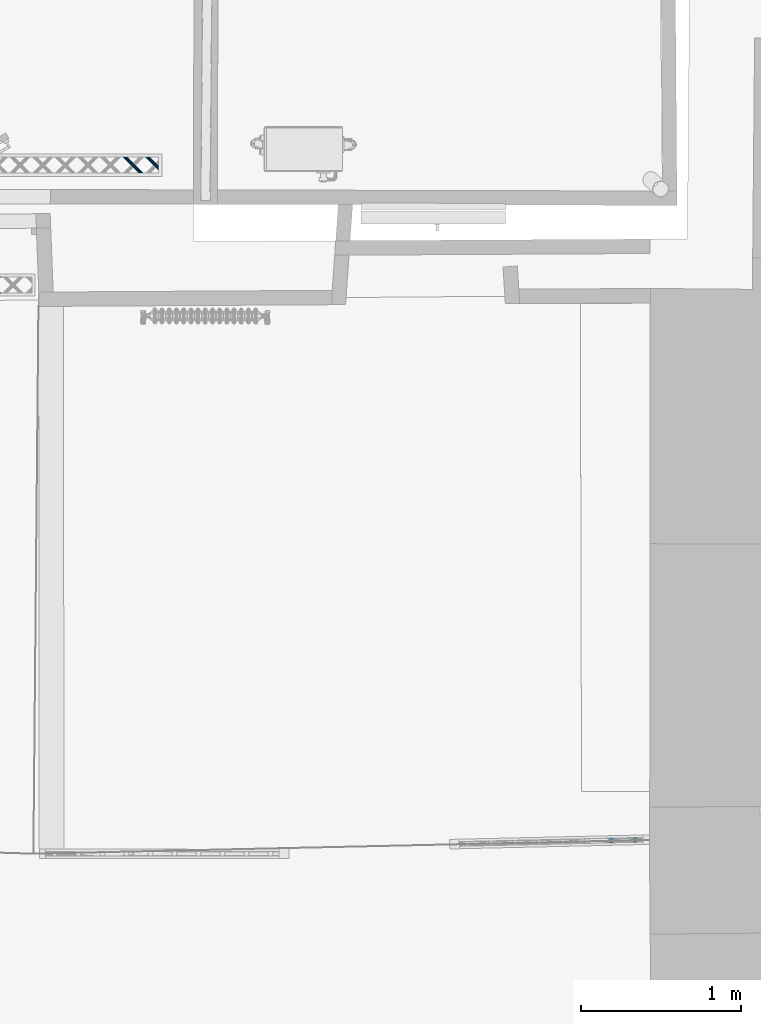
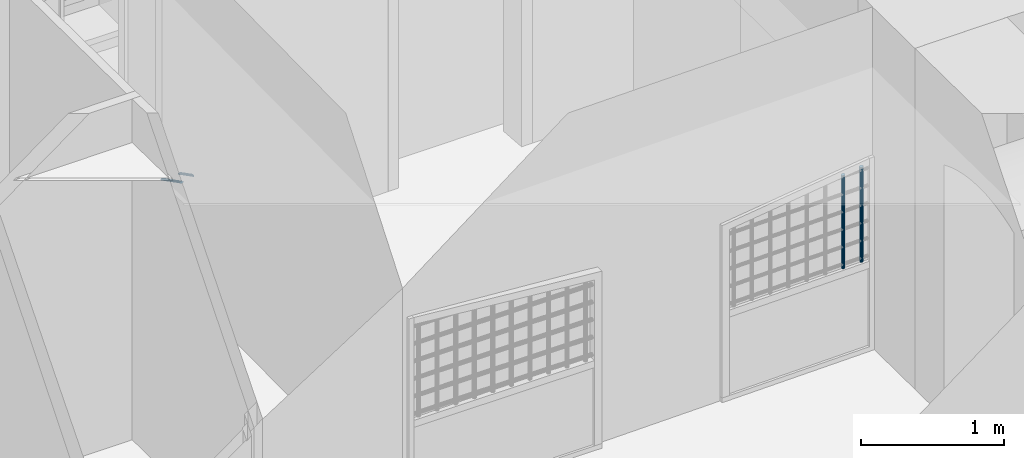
# One storey, part 72 of 133: 4 members, 2 elements without a shape of their own.
"""IFC2X3 building model written with IfcOpenShell, lengths in centimetres."""

from ifc_helpers import new_model, entity, si_unit, converted_unit, direction, frame, origin, origin_with_axes, place, context, subcontext, project, spatial, faceted_brep, material, type_object, element, aggregate, save


model = new_model("IFC2X3")

# Units and contexts
model_context = context("Model", 3, precision=0.0001, world=origin(), true_north=direction((0.225632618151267, 0.974212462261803, 0.0)))
body_context = subcontext(model_context, "Body", "Model", "MODEL_VIEW")
ifc_project = project(units=[si_unit("LENGTHUNIT", "METRE", prefix="CENTI"), si_unit("AREAUNIT", "SQUARE_METRE", prefix="CENTI"), si_unit("VOLUMEUNIT", "CUBIC_METRE", prefix="CENTI"), converted_unit("PLANEANGLEUNIT", "DEGREE", entity("IfcRatioMeasure", 0.0174532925), si_unit("PLANEANGLEUNIT", "RADIAN"), dimensions=[0, 0, 0, 0, 0, 0, 0])], contexts=[model_context])

# Site, building, storey
site_placement = place(None, origin_with_axes())
site = spatial("IfcSite", under=ifc_project, at=site_placement, Name="Default Site", CompositionType="ELEMENT")
building_placement = place(site_placement, origin_with_axes())
building = spatial("IfcBuilding", under=site, at=building_placement, Name="Default Building", CompositionType="ELEMENT")
storey_placement = place(building_placement, frame((0.0, 0.0, -291.400371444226), z_axis=(0.0, 0.0, 1.0), x_axis=(1.0, 0.0, 0.0)))
storey = spatial("IfcBuildingStorey", under=building, at=storey_placement, Name="Rez-de-Jardin", CompositionType="ELEMENT", Elevation=-291.400371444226)

# Assembly, members
building_element_proxy_type = type_object("IfcBuildingElementProxyType", Name="Type Object", PredefinedType="NOTDEFINED")
assembly_1_placement = place(storey_placement, frame((230.29031879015, 209.448968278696, 0.0), z_axis=(0.0, 0.0, 1.0), x_axis=(-0.999739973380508, -0.0228031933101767, 0.0)))
assembly_1 = element("IfcElementAssembly", 1, at=assembly_1_placement, inside=storey, type_object=building_element_proxy_type, Name="Panneau 76236", ObjectType="Precast panel", PredefinedType="USERDEFINED")
ifc_material_1 = material(Name="Noyer 01")
member_1_placement = place(assembly_1_placement, frame((10.409539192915, -2.48696978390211, 158.239233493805), z_axis=(0.112052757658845, -3.42476474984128e-06, 0.993702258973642), x_axis=(0.499207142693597, -0.864652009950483, -0.0562950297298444)))
member_1 = element("IfcMember", 2, at=member_1_placement, material=ifc_material_1, Name="4294966842", context=body_context, shape_type="Brep", body=[
    faceted_brep([(-3.46944695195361e-15, 2.4980018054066e-14, 2.22044604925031e-14), (-0.521771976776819, -6.93889387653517e-15, -2.06666524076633e-06), (-1.0130563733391, -0.179017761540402, -4.01257349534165e-06), (-1.41459805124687, -0.515462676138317, -5.60302348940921e-06), (-1.67796339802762, -0.968751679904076, -6.64617651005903e-06), (-1.77138882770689, -1.48421514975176, -7.01622146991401e-06), (-1.68360492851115, -1.99967880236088, -6.66852181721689e-06), (-1.42519934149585, -2.45296960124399, -5.64501370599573e-06), (-1.02733903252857, -2.78941299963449, -4.06914509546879e-06), (-0.538014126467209, -2.96843289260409, -2.13099810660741e-06), (-0.0162421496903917, -2.96843289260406, -6.43328436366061e-08), (0.475042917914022, -2.78941397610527, 1.881578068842e-06), (0.876584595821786, -2.45296906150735, 3.47202806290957e-06), (1.13994994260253, -1.99968005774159, 4.51518108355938e-06), (1.2333753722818, -1.48421658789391, 4.88522604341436e-06), (1.14559080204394, -0.968754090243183, 4.53752373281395e-06), (0.887185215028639, -0.515463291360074, 3.51401562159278e-06), (0.489325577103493, -0.179018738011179, 1.93814966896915e-06), (5.06026476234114, 7.68766392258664, -80.6847909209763), (5.45869885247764, 7.35220801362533, -80.6949255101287), (5.7187580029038, 6.90176303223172, -80.7241106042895), (5.80907526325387, 6.39065934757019, -80.7688260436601), (5.71875764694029, 5.88054449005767, -80.8236783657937), (5.45869875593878, 5.43294596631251, -80.8820515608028), (5.06026489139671, 5.10184966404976, -80.9369051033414), (4.57151318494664, 4.92719071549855, -80.9816228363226), (4.05139477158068, 4.93003653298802, -81.0108110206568), (3.56264364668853, 5.11004391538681, -81.0209491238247), (3.16420955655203, 5.44549982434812, -81.0108145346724), (2.90415040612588, 5.89594480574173, -80.9816294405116), (2.81383314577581, 6.40704849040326, -80.9369140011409), (2.90415076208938, 6.91716334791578, -80.8820616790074), (3.16420965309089, 7.36476187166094, -80.8236884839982), (3.56264351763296, 7.69585817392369, -80.7688349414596), (4.05139522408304, 7.8705171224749, -80.7241172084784), (4.571513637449, 7.86767130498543, -80.6949290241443), (0.489325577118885, -0.179018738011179, -1.94788316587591e-06), (0.887184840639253, -0.515463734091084, 3.44963998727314e-06), (5.45869847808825, 7.35220757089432, -80.6949255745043), (0.887185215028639, -0.515463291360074, 3.51401563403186e-06), (1.14559082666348, -0.968754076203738, 6.60695303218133e-06), (5.71875802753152, 6.90176304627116, -80.7241106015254), (1.14559080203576, -0.968754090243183, 6.60418899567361e-06), (1.23337577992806, -1.48421651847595, -2.55220549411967e-06), (5.80907567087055, 6.39065941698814, -80.7688260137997), (5.71875800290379, 6.90176303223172, -80.7241106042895), (1.23337537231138, -1.48421658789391, -2.58206589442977e-06), (1.13994991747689, -1.99968005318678, 3.24484184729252e-06), (5.71875762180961, 5.88054449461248, -80.8236783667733), (5.80907526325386, 6.39065934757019, -80.7688260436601), (1.13994994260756, -1.99968005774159, 3.2458214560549e-06), (0.87658459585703, -2.45296906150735, -5.42637339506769e-06), (0.876584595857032, -2.45296906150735, -5.42637339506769e-06), (0.475042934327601, -2.78941399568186, -8.1987051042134e-07), (5.0602649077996, 5.10184964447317, -80.9369051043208), (5.45869875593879, 5.43294596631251, -80.8820515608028), (0.475042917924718, -2.78941397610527, -8.18891066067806e-07), (-0.016242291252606, -2.9684325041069, -4.23044268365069e-07), (4.57151304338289, 4.92719110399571, -80.9816228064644), (-0.0162421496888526, -2.96843289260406, -4.52902493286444e-07), (-0.538014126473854, -2.96843286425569, -4.50138554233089e-07), (4.05139477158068, 4.93003656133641, -81.0108110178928), (-0.538014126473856, -2.96843289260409, -4.52902493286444e-07), (-1.02733923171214, -2.78941354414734, -1.04152482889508e-05), (3.56264344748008, 5.11004337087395, -81.0209491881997), (4.05139477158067, 4.93003653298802, -81.0108110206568), (-1.02733903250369, -2.78941299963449, -1.0350873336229e-05), (-1.42519896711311, -2.45296915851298, -3.90254245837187e-06), (3.16420993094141, 5.44550026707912, -81.0108144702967), (3.56264364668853, 5.1100439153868, -81.0209491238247), (-1.4251993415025, -2.45296960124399, -3.96691810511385e-06), (-1.68360495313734, -1.99967881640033, -7.05985550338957e-06), (2.90415038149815, 5.89594479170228, -80.9816294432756), (3.16420955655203, 5.44549982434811, -81.0108145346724), (-1.68360492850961, -1.99967880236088, -7.05709146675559e-06), (-1.77138923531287, -1.48421521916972, -9.74655098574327e-06), (2.81383273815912, 6.40704842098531, -80.9369140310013), (-1.77138882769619, -1.48421514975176, -9.71669058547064e-06), (-1.6779633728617, -0.968751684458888, -1.55435983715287e-05), (2.90415078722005, 6.91716334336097, -80.8820616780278), (2.8138331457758, 6.40704849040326, -80.9369140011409), (-1.67796339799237, -0.968751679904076, -1.55445779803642e-05), (-1.41459805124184, -0.515462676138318, -6.87238312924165e-06), (-1.41459805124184, -0.515462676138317, -6.87238312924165e-06), (-1.01305638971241, -0.179017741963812, -1.14788859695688e-05), (3.56264350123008, 7.69585819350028, -80.7688349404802), (-1.01305637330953, -0.179017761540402, -1.14798654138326e-05), (-0.521771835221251, -3.88497167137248e-07, -2.98582026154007e-08), (4.05139536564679, 7.87051673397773, -80.7241172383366), (-0.521771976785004, -6.93889390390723e-15, 2.22044604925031e-14), (-5.0242832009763e-15, -2.83483705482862e-08, -2.76391684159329e-09), (4.571513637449, 7.86767127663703, -80.6949290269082), (4.05139522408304, 7.87051712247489, -80.7241172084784), (0.489325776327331, -0.17901819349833, -1.88350821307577e-06), (5.06026496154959, 7.68766446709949, -80.6847908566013), (4.571513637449, 7.86767130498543, -80.6949290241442)], [[[0, 1, 2, 3, 4, 5, 6, 7, 8, 9, 10, 11, 12, 13, 14, 15, 16, 17]], [[18, 19, 20, 21, 22, 23, 24, 25, 26, 27, 28, 29, 30, 31, 32, 33, 34, 35]], [[36, 37, 38, 18]], [[39, 40, 41, 19]], [[42, 43, 44, 45]], [[46, 47, 48, 49]], [[50, 51, 23, 22]], [[52, 53, 54, 55]], [[56, 57, 58, 24]], [[59, 60, 61, 25]], [[62, 63, 64, 65]], [[66, 67, 68, 69]], [[70, 71, 72, 73]], [[74, 75, 76, 29]], [[77, 78, 79, 80]], [[81, 82, 32, 31]], [[83, 84, 85, 32]], [[86, 87, 88, 33]], [[89, 90, 91, 92]], [[0, 93, 94, 95]]]),
])
member_2_placement = place(assembly_1_placement, frame((25.4095375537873, -2.48696978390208, 156.547820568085), z_axis=(0.11205275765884, -3.4247647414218e-06, 0.993702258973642), x_axis=(0.499207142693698, -0.864652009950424, -0.056295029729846)))
member_2 = element("IfcMember", 3, at=member_2_placement, material=ifc_material_1, Name="4294966841", context=body_context, shape_type="Brep", body=[
    faceted_brep([(1.2490009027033e-14, 4.44089209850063e-14, 4.44089209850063e-14), (-0.521771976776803, 7.63278328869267e-14, -2.06666521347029e-06), (-1.0130552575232, -0.179015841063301, -4.01256904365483e-06), (-1.41459730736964, -0.515461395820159, -5.60302050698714e-06), (-1.67796302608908, -0.968751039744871, -6.64617499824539e-06), (-1.77138808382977, -1.48421386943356, -7.01621848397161e-06), (-1.68360381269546, -1.9996768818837, -6.66851735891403e-06), (-1.42519822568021, -2.45296768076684, -5.64500925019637e-06), (-1.02733866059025, -2.78941235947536, -4.06914358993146e-06), (-0.538013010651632, -2.96843097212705, -2.13099365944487e-06), (-0.0162410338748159, -2.96843097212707, -6.43284015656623e-08), (0.475043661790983, -2.78941269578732, 1.8815810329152e-06), (0.876584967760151, -2.45296842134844, 3.47202954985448e-06), (1.13995068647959, -1.99967877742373, 4.51518404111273e-06), (1.23337648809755, -1.48421466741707, 4.88523047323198e-06), (1.14559080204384, -0.968754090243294, 4.53752374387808e-06), (0.887185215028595, -0.515463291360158, 3.51401563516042e-06), (0.489326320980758, -0.17901745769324, 1.9381526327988e-06), (4.96504736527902, 7.52379277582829, -79.0040299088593), (5.36348071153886, 7.18833558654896, -79.0141646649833), (5.62353986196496, 6.73789060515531, -79.0433497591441), (5.71385823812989, 6.22678884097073, -79.0880649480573), (5.62354024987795, 5.71667334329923, -79.1429173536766), (5.36348098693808, 5.26907417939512, -79.2012906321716), (4.96504749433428, 4.93797851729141, -79.2561440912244), (4.47629615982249, 4.76332020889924, -79.3008617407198), (3.95617774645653, 4.76616602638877, -79.3300499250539), (3.46742587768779, 4.94617212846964, -79.3401881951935), (3.06899253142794, 5.28162931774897, -79.3300534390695), (2.80893338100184, 5.73207429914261, -79.3008683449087), (2.71861574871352, 6.24317734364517, -79.2561529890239), (2.80893299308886, 6.7532915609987, -79.2013007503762), (3.06899225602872, 7.20089072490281, -79.1429274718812), (3.46742649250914, 7.53198766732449, -79.0880738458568), (3.95617708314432, 7.70664469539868, -79.043356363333), (4.47629549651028, 7.70379887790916, -79.0141681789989), (0.489326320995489, -0.17901745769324, -1.78091150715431e-06), (0.887185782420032, -0.515462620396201, 3.61157769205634e-06), (5.3634812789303, 7.18833625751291, -79.0141645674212), (0.887185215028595, -0.515463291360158, 3.51401565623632e-06), (1.14559082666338, -0.968754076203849, 6.60695305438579e-06), (5.62353988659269, 6.73789061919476, -79.04334975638), (1.14559080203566, -0.968754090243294, 6.60418901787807e-06), (1.23337548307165, -1.4842148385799, -2.4052348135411e-06), (5.7138572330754, 6.22678866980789, -79.0880650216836), (1.23337648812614, -1.48421466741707, -2.33160846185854e-06), (1.13995091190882, -1.99967881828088, 3.42158028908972e-06), (5.62354047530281, 5.71667330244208, -79.1429173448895), (1.13995068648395, -1.99967877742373, 3.41279309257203e-06), (0.876584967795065, -2.45296842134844, -5.34288755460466e-06), (5.62354024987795, 5.71667334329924, -79.1429173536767), (0.475043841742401, -2.78941291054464, -6.62664038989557e-07), (4.96504767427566, 4.93797830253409, -79.256144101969), (5.36348098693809, 5.26907417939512, -79.2012906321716), (0.475043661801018, -2.78941269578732, -6.51919429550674e-07), (-0.016241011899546, -2.96843103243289, -2.07079862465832e-07), (4.47629618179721, 4.76332014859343, -79.3008617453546), (4.96504749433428, 4.9379785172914, -79.2561440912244), (-0.0162410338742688, -2.96843097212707, -2.02445016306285e-07), (-0.538013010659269, -2.96843094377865, -1.99681077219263e-07), (3.95617774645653, 4.76616605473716, -79.33004992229), (-0.538013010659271, -2.96843097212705, -2.02445016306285e-07), (-1.027338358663, -2.78941153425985, -1.01698265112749e-05), (3.46742617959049, 4.94617295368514, -79.3401880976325), (3.95617774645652, 4.76616602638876, -79.3300499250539), (-1.0273386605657, -2.78941235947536, -1.02673874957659e-05), (-1.42519879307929, -2.4529683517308, -3.81402266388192e-06), (3.0689919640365, 5.28162864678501, -79.3300535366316), (3.46742587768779, 4.94617212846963, -79.3401881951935), (-1.42519822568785, -2.45296768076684, -3.71646062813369e-06), (-1.68360383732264, -1.99967689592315, -6.80939802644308e-06), (2.80893335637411, 5.73207428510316, -79.3008683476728), (-1.68360381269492, -1.9996768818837, -6.80663398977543e-06), (-1.77138802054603, -1.48421385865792, -9.54508376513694e-06), (2.71861581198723, 6.24317735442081, -79.2561529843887), (-1.77138808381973, -1.48421386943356, -9.54971894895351e-06), (-1.67796275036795, -0.968751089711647, -1.54503456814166e-05), (2.80893326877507, 6.75329151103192, -79.2013007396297), (-1.67796302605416, -0.968751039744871, -1.54610920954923e-05), (-1.41459730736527, -0.515461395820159, -6.7054114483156e-06), (2.80893299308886, 6.75329156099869, -79.2013007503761), (-1.013055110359, -0.179016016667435, -1.12381937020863e-05), (3.46742663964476, 7.53198749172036, -79.0880738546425), (-1.01305525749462, -0.179015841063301, -1.12294079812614e-05), (-0.521772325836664, 9.57911843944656e-07, 7.3621032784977e-08), (3.95617673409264, 7.70664565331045, -79.043356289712), (-0.521771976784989, 7.63278329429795e-14, 4.44089209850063e-14), (1.09351695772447e-14, -2.83483486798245e-08, -2.76389439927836e-09), (4.47629549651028, 7.70379884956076, -79.0141681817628), (0.489326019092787, -0.179018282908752, -1.87847249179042e-06), (4.96504706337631, 7.52379195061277, -79.0040300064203), (4.47629549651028, 7.70379887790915, -79.0141681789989)], [[[0, 1, 2, 3, 4, 5, 6, 7, 8, 9, 10, 11, 12, 13, 14, 15, 16, 17]], [[18, 19, 20, 21, 22, 23, 24, 25, 26, 27, 28, 29, 30, 31, 32, 33, 34, 35]], [[36, 37, 38, 18]], [[39, 40, 41, 19]], [[42, 43, 44, 20]], [[45, 46, 47, 21]], [[48, 49, 23, 50]], [[49, 51, 52, 53]], [[54, 55, 56, 57]], [[58, 59, 60, 25]], [[61, 62, 63, 64]], [[65, 66, 67, 68]], [[69, 70, 71, 28]], [[72, 73, 74, 29]], [[75, 76, 77, 30]], [[78, 79, 32, 80]], [[79, 81, 82, 32]], [[83, 84, 85, 33]], [[86, 87, 88, 34]], [[0, 89, 90, 91]]]),
])
aggregate(assembly_1, [member_1, member_2])

assembly_2_placement = place(storey_placement, frame((-322.682568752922, 627.125798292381, 0.0), z_axis=(0.0, 1.0, -2.38697950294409e-15), x_axis=(1.0, 0.0, 0.0)))
assembly_2 = element("IfcElementAssembly", 4, at=assembly_2_placement, inside=storey, type_object=building_element_proxy_type, Name="Panneau 92029", ObjectType="Precast panel", PredefinedType="USERDEFINED")
ifc_material_2 = material(Name="Aluminium satiné")
member_3_placement = place(assembly_2_placement, frame((246.000003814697, 0.34202013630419, 3.87922674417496), z_axis=(0.999999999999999, 0.0, 0.0), x_axis=(0.0, -0.774596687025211, -0.632455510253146)))
member_3 = element("IfcMember", 5, at=member_3_placement, material=ifc_material_2, Name="4294966813", context=body_context, shape_type="Brep", body=[
    faceted_brep([(5.51642065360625e-14, 1.43288159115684e-13, 0.0), (-0.388289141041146, 1.4432899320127e-13, 0.0), (-0.799165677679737, -0.150249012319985, 0.0), (-1.18307220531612, -0.432625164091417, 0.0), (-1.49370349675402, -0.81306926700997, 0.0), (-1.6935929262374, -1.24569426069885, 0.0), (-1.75863119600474, -1.67831950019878, 0.0), (-1.68097334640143, -2.05876360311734, 0.0), (-1.46998625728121, -2.34113956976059, 0.0), (-1.15111801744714, -2.49138864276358, 0.0), (-0.762828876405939, -2.49138864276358, 0.0), (-0.35195210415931, -2.3411393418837, 0.0), (0.0319541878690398, -2.05876347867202, 0.0), (0.342585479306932, -1.67831937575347, 0.0), (0.542475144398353, -1.24569409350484, 0.0), (0.607513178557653, -0.813069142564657, 0.0), (0.529855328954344, -0.432625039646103, 0.0), (0.318868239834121, -0.150249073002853, 0.0), (-4.87109995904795, -6.50663637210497, -8.20605754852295), (-4.6061722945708, -6.7229488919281, -8.12077522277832), (-4.37319879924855, -6.91317094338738, -7.87520408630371), (-4.2002795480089, -7.0543589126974, -7.49895572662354), (-4.10827111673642, -7.129483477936, -7.03742504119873), (-4.10827111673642, -7.129483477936, -6.54628276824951), (-4.2002795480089, -7.0543589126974, -6.08475208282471), (-4.37319879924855, -6.91317094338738, -5.70850372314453), (-4.6061722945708, -6.7229488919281, -5.46293258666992), (-4.87109995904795, -6.50663637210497, -5.37762641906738), (-5.13602762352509, -6.29032385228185, -5.46293258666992), (-5.36900111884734, -6.10010180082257, -5.70850372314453), (-5.54192037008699, -5.95891383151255, -6.08475208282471), (-5.63392880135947, -5.88378926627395, -6.54628276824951), (-5.63392880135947, -5.88378926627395, -7.03742504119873), (-5.54192037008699, -5.95891383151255, -7.49895572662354), (-5.36900111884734, -6.10010180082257, -7.87520408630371), (-5.13602762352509, -6.29032385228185, -8.12077522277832), (0.52985533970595, -0.432625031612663, -1.30225885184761e-08), (-4.60617317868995, -6.72294955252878, -8.1207741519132), (-4.87109876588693, -6.50663548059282, -8.20605899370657), (0.607513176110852, -0.813069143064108, 1.93436615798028e-09), (-4.37320198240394, -6.9131715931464, -7.87520156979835), (-4.606173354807, -6.72294910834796, -8.12077438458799), (0.542475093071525, -1.24569408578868, 2.64850304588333e-08), (-4.20028034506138, -7.05435879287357, -7.49895531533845), (-4.37320148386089, -6.91317053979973, -7.8752027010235), (0.342585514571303, -1.67831939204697, -9.68225159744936e-09), (-4.1082716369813, -7.12948323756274, -7.03742489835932), (-4.20027994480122, -7.05435872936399, -7.49895561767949), (0.0319541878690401, -2.05876347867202, 0.0), (-0.351952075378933, -2.34113938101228, 1.21065570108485e-08), (-4.20027786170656, -7.05436120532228, -6.08475137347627), (-4.10826951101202, -7.12948566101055, -6.54628209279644), (-0.76282891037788, -2.49138854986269, -5.04749811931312e-08), (-4.37319779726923, -6.91317368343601, -5.70850223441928), (-4.20027789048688, -7.05436344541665, -6.08474962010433), (-1.15111801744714, -2.49138864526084, 1.93436607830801e-09), (-4.60617229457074, -6.72295466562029, -5.46292811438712), (-4.37319879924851, -6.91317455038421, -5.70850092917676), (-1.4699862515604, -2.34113955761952, -1.30225883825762e-08), (-4.87109852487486, -6.50663332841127, -5.37762968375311), (-4.6061748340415, -6.72295428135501, -5.46292680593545), (-1.68097335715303, -2.05876361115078, 1.30225883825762e-08), (-5.13603240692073, -6.29032742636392, -5.46292679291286), (-4.87109727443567, -6.50663436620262, -5.37762967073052), (-1.75863119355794, -1.67831949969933, -1.93436607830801e-09), (-5.36900465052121, -6.10010252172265, -5.70850093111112), (-5.13603327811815, -6.2903250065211, -5.46292811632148), (-1.6935930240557, -1.24569424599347, 5.04749813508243e-08), (-5.54192524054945, -5.95891309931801, -6.08474956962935), (-5.36900410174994, -6.10010135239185, -5.7085021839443), (-1.49370345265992, -0.813069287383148, -1.21065570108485e-08), (-5.63393121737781, -5.88378814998, -6.546282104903), (-5.54192290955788, -5.95891265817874, -6.08475138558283), (-1.18307220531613, -0.432625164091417, 0.0), (-0.799165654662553, -0.150249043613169, 9.68225166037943e-09), (-5.541920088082, -5.95891421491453, -7.49895560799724), (-5.63392843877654, -5.88378975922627, -7.03742488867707), (-0.388289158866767, 4.87467292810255e-08, -2.64850306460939e-08), (-5.36900020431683, -6.10010430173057, -7.87520272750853), (-5.54192011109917, -5.95891453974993, -7.49895534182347), (5.51385090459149e-14, 2.49739914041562e-09, -1.93436609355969e-09), (-5.13602762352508, -6.29032493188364, -8.12077438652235), (-5.36900111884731, -6.10010504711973, -7.87520157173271), (0.318868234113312, -0.150249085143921, 1.30225884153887e-08), (-4.87109932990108, -6.50663503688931, -8.20605898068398), (-5.13602809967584, -6.2903248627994, -8.12077413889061)], [[[0, 1, 2, 3, 4, 5, 6, 7, 8, 9, 10, 11, 12, 13, 14, 15, 16, 17]], [[18, 19, 20, 21, 22, 23, 24, 25, 26, 27, 28, 29, 30, 31, 32, 33, 34, 35]], [[17, 36, 37, 38]], [[16, 39, 40, 41]], [[15, 42, 43, 44]], [[14, 45, 46, 47]], [[13, 48, 23, 22]], [[12, 49, 50, 51]], [[11, 52, 53, 54]], [[10, 55, 56, 57]], [[9, 58, 59, 60]], [[8, 61, 62, 63]], [[7, 64, 65, 66]], [[6, 67, 68, 69]], [[5, 70, 71, 72]], [[4, 73, 32, 31]], [[3, 74, 75, 76]], [[2, 77, 78, 79]], [[1, 80, 81, 82]], [[0, 83, 84, 85]]]),
])
member_4_placement = place(assembly_2_placement, frame((233.737087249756, 0.342020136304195, 1.99999995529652), z_axis=(1.16937209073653e-15, 1.43220862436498e-15, -1.0), x_axis=(-0.632448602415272, -0.774602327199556, -1.84895987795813e-15)))
member_4 = element("IfcMember", 6, at=member_4_placement, material=ifc_material_2, Name="4294966812", context=body_context, shape_type="Brep", body=[
    faceted_brep([(-2.22044604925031e-14, 2.22044604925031e-14, 1.83880688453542e-13), (-0.388286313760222, 4.44089209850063e-14, 1.84598614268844e-13), (-0.79916457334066, -0.150256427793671, 1.85358311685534e-13), (-1.18306811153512, -0.43263542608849, 1.86068133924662e-13), (-1.49370543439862, -0.813093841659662, 1.86642489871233e-13), (-1.69359077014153, -1.24572032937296, 1.87012069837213e-13), (-1.75861293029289, -1.67833114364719, 1.87132293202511e-13), (-1.68096393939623, -2.05878955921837, 1.8698872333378e-13), (-1.46997103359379, -2.34115960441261, 1.86598605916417e-13), (-1.15110475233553, -2.49140987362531, 1.86009034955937e-13), (-0.762803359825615, -2.4913914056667, 1.85291081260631e-13), (-0.351940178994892, -2.34115344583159, 1.84531411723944e-13), (0.0319633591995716, -2.05877444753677, 1.83821589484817e-13), (0.342600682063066, -1.6783160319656, 1.83247233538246e-13), (0.542486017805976, -1.2456895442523, 1.82877653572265e-13), (0.607523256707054, -0.81306026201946, 1.82757402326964e-13), (0.529859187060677, -0.432620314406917, 1.82901000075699e-13), (0.318866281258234, -0.150250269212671, 1.83291117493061e-13), (6.64334627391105, 7.59576561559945, -9.99999977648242), (6.8543391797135, 7.3133955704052, -9.99999977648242), (6.93200324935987, 6.93295562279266, -9.99999977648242), (6.8669660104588, 6.50032634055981, -9.99999977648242), (6.66708067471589, 6.06769985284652, -9.99999977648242), (6.35645843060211, 5.68725990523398, -9.99999977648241), (5.97255489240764, 5.40488090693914, -9.99999977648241), (5.56167663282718, 5.25462447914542, -9.99999977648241), (5.17339031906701, 5.25462447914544, -9.99999977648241), (4.85452403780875, 5.40487474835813, -9.99999977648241), (4.64353113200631, 5.68724479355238, -9.99999977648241), (4.56586706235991, 6.06768474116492, -9.99999977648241), (4.63090430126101, 6.50031402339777, -9.99999977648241), (4.83078963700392, 6.93294051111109, -9.99999977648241), (5.1414118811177, 7.31338045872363, -9.99999977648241), (5.52531541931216, 7.59575945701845, -9.99999977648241), (5.9361936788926, 7.74601588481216, -9.99999977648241), (6.3244799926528, 7.74601588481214, -9.99999977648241), (0.318866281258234, -0.150250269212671, 1.83533743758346e-13), (0.529857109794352, -0.432621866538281, -2.51604856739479e-06), (6.85434083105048, 7.31339680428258, -9.99999777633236), (6.64335000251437, 7.59576840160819, -9.99999526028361), (0.529859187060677, -0.432620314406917, 1.83186799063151e-13), (0.607521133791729, -0.813060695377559, -1.67831483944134e-06), (6.93200554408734, 6.93295609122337, -9.99999796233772), (6.85434359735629, 7.31339647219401, -9.9999962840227), (0.607523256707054, -0.81306026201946, 1.82839854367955e-13), (0.542487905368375, -1.24568982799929, 9.7399530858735e-07), (6.86697162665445, 6.50032549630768, -9.99999687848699), (6.93200697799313, 6.93295506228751, -9.99999785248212), (0.542486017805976, -1.2456895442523, 1.82839854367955e-13), (0.342600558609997, -1.67831597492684, -3.38951826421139e-08), (6.66708253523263, 6.06769899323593, -9.99999926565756), (6.86696799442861, 6.50032542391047, -9.9999992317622), (0.342600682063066, -1.6783160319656, 1.83186799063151e-13), (0.0319633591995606, -2.05877444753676, 1.83880688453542e-13), (6.3564584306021, 5.68725990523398, -9.99999977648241), (6.66708067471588, 6.06769985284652, -9.99999977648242), (0.0319633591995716, -2.05877444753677, 1.83880688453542e-13), (-0.35194009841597, -2.34115355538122, -3.38951838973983e-08), (5.97255699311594, 5.40487805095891, -10.0000006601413), (6.35646045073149, 5.68725715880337, -10.000000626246), (-0.351940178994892, -2.34115344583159, 1.84574577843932e-13), (-0.762800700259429, -2.49139867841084, -3.95144543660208e-06), (5.56167799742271, 5.25462074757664, -10.0000018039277), (5.97255691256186, 5.40487538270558, -10.0000027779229), (-0.762803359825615, -2.4913914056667, 1.85268467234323e-13), (-1.15110475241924, -2.4914004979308, 7.26238202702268e-06), (5.1733903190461, 5.25462682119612, -9.99999796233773), (5.56167663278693, 5.25462898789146, -9.99999628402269), (-1.15110475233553, -2.49140987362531, 1.86309301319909e-13), (-1.46997213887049, -2.34116195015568, -2.51604855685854e-06), (4.8545198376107, 5.40486583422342, -10.0000093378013), (5.17338722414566, 5.25461791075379, -10.0000068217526), (-1.46997103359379, -2.34115960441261, 1.86656246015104e-13), (-1.6809618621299, -2.058788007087, 2.51604893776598e-06), (4.64352739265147, 5.68724199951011, -10.0000043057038), (4.85451822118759, 5.4048704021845, -10.0000068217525), (-1.68096393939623, -2.05878955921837, 1.870031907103e-13), (-1.75862211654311, -1.67833301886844, -7.2623816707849e-06), (4.56586229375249, 6.06768376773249, -10.0000035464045), (4.64352424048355, 5.68724338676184, -10.0000052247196), (-1.75861293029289, -1.67833114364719, 1.87350135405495e-13), (-1.6935831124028, -1.24572148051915, 3.95144582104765e-06), (4.63090614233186, 6.5003137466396, -9.99999882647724), (4.56587079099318, 6.06768418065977, -9.99999785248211), (-1.69359077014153, -1.24572032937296, 1.87350135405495e-13), (-1.49370531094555, -0.813093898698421, 3.38955525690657e-08), (4.83078666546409, 6.93294188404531, -10.0000005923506), (4.6309012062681, 6.50031545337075, -10.000000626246), (-1.49370543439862, -0.813093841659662, 1.86656246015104e-13), (-1.18306811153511, -0.432635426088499, 1.85962356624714e-13), (5.14141188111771, 7.31338045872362, -9.99999977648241), (-1.18306811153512, -0.43263542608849, 1.85962356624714e-13), (-0.799164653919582, -0.150256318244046, 3.38955541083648e-08), (5.52531404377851, 7.59576132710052, -9.99999919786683), (5.14141058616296, 7.31338221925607, -9.9999992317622), (-0.79916457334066, -0.150256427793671, 1.85615411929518e-13), (-0.388285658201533, -1.7926647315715e-06, -9.73994945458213e-07), (5.93619303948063, 7.74601763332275, -9.99999882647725), (5.5253141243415, 7.59576299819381, -9.99999785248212), (-0.388286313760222, 4.44089209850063e-14, 1.84921522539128e-13), (-1.93669763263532e-11, 2.16669539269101e-06, 1.67831522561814e-06), (6.3244799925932, 7.74602256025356, -9.99999460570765), (5.93619367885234, 7.74602039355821, -9.99999628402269), (0.318867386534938, -0.150247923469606, 2.51604892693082e-06), (6.6433493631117, 7.59577217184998, -9.99999274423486), (6.32448197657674, 7.74602009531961, -9.99999526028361)], [[[0, 1, 2, 3, 4, 5, 6, 7, 8, 9, 10, 11, 12, 13, 14, 15, 16, 17]], [[18, 19, 20, 21, 22, 23, 24, 25, 26, 27, 28, 29, 30, 31, 32, 33, 34, 35]], [[36, 37, 38, 39]], [[40, 41, 42, 43]], [[44, 45, 46, 47]], [[48, 49, 50, 51]], [[52, 53, 54, 55]], [[56, 57, 58, 59]], [[60, 61, 62, 63]], [[64, 65, 66, 67]], [[68, 69, 70, 71]], [[72, 73, 74, 75]], [[76, 77, 78, 79]], [[80, 81, 82, 83]], [[84, 85, 86, 87]], [[88, 89, 90, 31]], [[91, 92, 93, 94]], [[95, 96, 97, 98]], [[99, 100, 101, 102]], [[0, 103, 104, 105]]]),
])
aggregate(assembly_2, [member_3, member_4])

save(model, "model.ifc")
